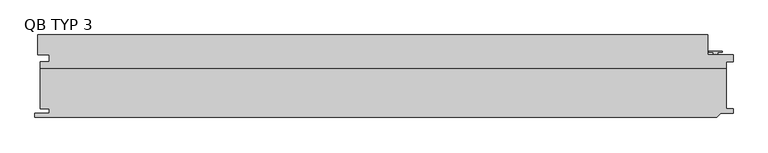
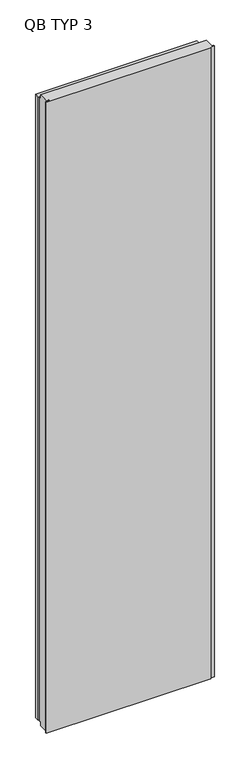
"""IFC4 building model written with IfcOpenShell, lengths in millimetres: plate geometry, TR_C_V_QBISS_Panel : QB TYP 3."""

from ifc_helpers import new_model, si_unit, frame, origin, place, context, project, spatial, polyline, outline, extrude, faceted_brep, source, transform, mapped, element, save


def qb_typ_3_3dfc6f2a(model_context):
    return source(origin(), model_context, "Body", "SolidModel", [
        faceted_brep([(-500.0, -108.0, 4012.4), (-487.0, -108.0, 4012.4), (-487.0, -114.0, 4012.4), (-508.0, -114.0, 4012.4), (-508.0, -120.0, 4012.4), (486.0, -120.0, 4012.4), (492.0, -114.0, 4012.4), (510.0, -114.0, 4012.4), (510.0, -108.0, 4012.4), (500.0, -108.0, 4012.4), (500.0, -49.0, 4012.4), (-500.0, -49.0, 4012.4), (500.0, -108.0, -12.4), (510.0, -108.0, -12.4), (510.0, -114.0, -12.4), (492.0, -114.0, -12.4), (486.0, -120.0, -12.4), (-508.0, -120.0, -12.4), (-508.0, -114.0, -12.4), (-487.0, -114.0, -12.4), (-487.0, -108.0, -12.4), (-500.0, -108.0, -12.4), (-500.0, -49.0, -12.4), (500.0, -49.0, -12.4), (-500.0, -49.0, 12.7), (500.0, -49.0, 12.7), (-500.0, -39.0, 12.7), (-487.0, -39.0, 12.7), (-487.0, -29.0, 12.7), (-504.0, -29.0, 12.7), (-504.0, 0.0, 12.7), (473.0, 0.0, 12.7), (473.0, -29.0, 12.7), (510.0, -29.0, 12.7), (510.0, -39.0, 12.7), (500.0, -39.0, 12.7), (500.0, -39.0, 3987.3), (500.0, -49.0, 3987.3), (510.0, -39.0, 3987.3), (510.0, -29.0, 3987.3), (473.0, -29.0, 3987.3), (473.0, 0.0, 3987.3), (-504.0, 0.0, 3987.3), (-504.0, -29.0, 3987.3), (-487.0, -29.0, 3987.3), (-487.0, -39.0, 3987.3), (-500.0, -39.0, 3987.3), (-500.0, -49.0, 3987.3)], [[[0, 1, 2, 3, 4, 5, 6, 7, 8, 9, 10, 11]], [[12, 13, 14, 15, 16, 17, 18, 19, 20, 21, 22, 23]], [[24, 25, 23, 22]], [[25, 24, 26, 27, 28, 29, 30, 31, 32, 33, 34, 35]], [[1, 0, 21, 20]], [[2, 1, 20, 19]], [[3, 2, 19, 18]], [[4, 3, 18, 17]], [[5, 4, 17, 16]], [[6, 5, 16, 15]], [[7, 6, 15, 14]], [[8, 7, 14, 13]], [[9, 8, 13, 12]], [[9, 12, 23, 25, 35, 36, 37, 10]], [[35, 34, 38, 36]], [[34, 33, 39, 38]], [[33, 32, 40, 39]], [[32, 31, 41, 40]], [[31, 30, 42, 41]], [[30, 29, 43, 42]], [[29, 28, 44, 43]], [[28, 27, 45, 44]], [[27, 26, 46, 45]], [[21, 0, 11, 47, 46, 26, 24, 22]], [[37, 47, 11, 10]], [[47, 37, 36, 38, 39, 40, 41, 42, 43, 44, 45, 46]]]),
        extrude(outline(polyline([(494.5, -24.0), (494.5, -25.4998317), (487.7023593, -25.4998317), (487.7023593, -27.9998293), (488.5023593, -27.9998293), (488.5023593, -28.7998428), (480.5023028, -28.7998428), (480.5023028, -27.9998293), (481.3023028, -27.9998293), (481.3023028, -25.4998317), (474.5, -25.4998317), (474.5, -24.0), (494.5, -24.0)])), frame((0.0, 0.0, 12.5), z_axis=(0.0, 0.0, 1.0), x_axis=(1.0, 0.0, 0.0)), (0.0, 0.0, 1.0), 3975.0),
    ])


if __name__ == "__main__":
    model = new_model("IFC4")
    model_context = context("Model", 3, world=origin())
    ifc_project = project(units=[si_unit("LENGTHUNIT", "METRE", prefix="MILLI")], contexts=[model_context])
    site = spatial("IfcSite", under=ifc_project)
    building = spatial("IfcBuilding", under=site)
    placement = place(None, origin())
    qb_typ_3_shape = qb_typ_3_3dfc6f2a(model_context)
    element("IfcPlate", 1, ObjectType="TR_C_V_QBISS_Panel : QB TYP 3", at=placement, inside=building, context=model_context, shape_type="MappedRepresentation", body=[
        mapped(qb_typ_3_shape, transform((0.0, 0.0, 0.0), x_axis=(1.0, 0.0, 0.0), y_axis=(0.0, 1.0, 0.0), z_axis=(0.0, 0.0, 1.0))),
    ])
    save(model, "model.ifc")
